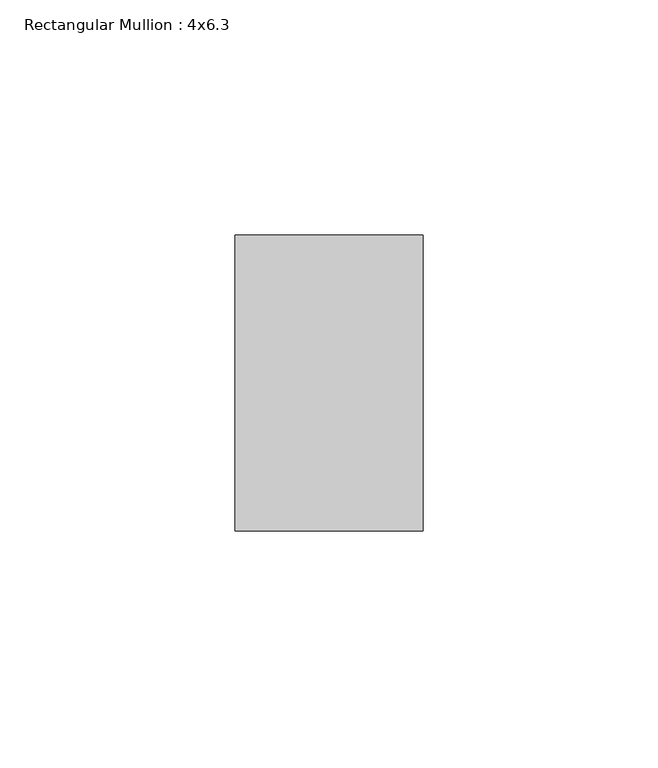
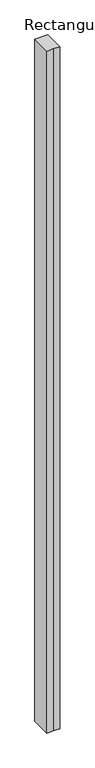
"""IFC4 building model written with IfcOpenShell, lengths in millimetres: member geometry, Rectangular Mullion : 4x6.3."""

from ifc_helpers import new_model, si_unit, frame, origin, place, context, project, spatial, polyline, outline, extrude, source, transform, mapped, element, save


def rectangular_mullion_4x6_3_479f464c(model_context):
    return source(origin(), model_context, "Body", "SweptSolid", [
        extrude(outline(polyline([(-20.0, 20.0), (-20.0, 83.0), (20.0, 83.0), (20.0, 20.0), (0.0, 20.0), (-20.0, 20.0)])), frame((0.0, 0.0, -2210.9517612), z_axis=(0.0, 0.0, 1.0), x_axis=(1.0, 0.0, 0.0)), (0.0, 0.0, 1.0), 2210.9517612),
    ])


if __name__ == "__main__":
    model = new_model("IFC4")
    model_context = context("Model", 3, world=origin())
    ifc_project = project(units=[si_unit("LENGTHUNIT", "METRE", prefix="MILLI")], contexts=[model_context])
    site = spatial("IfcSite", under=ifc_project)
    building = spatial("IfcBuilding", under=site)
    placement = place(None, origin())
    rectangular_mullion_4x6_3_shape = rectangular_mullion_4x6_3_479f464c(model_context)
    element("IfcMember", 1, ObjectType="Rectangular Mullion : 4x6.3", at=placement, inside=building, context=model_context, shape_type="MappedRepresentation", body=[
        mapped(rectangular_mullion_4x6_3_shape, transform((0.0, 0.0, 0.0), x_axis=(1.0, 0.0, 0.0), y_axis=(0.0, 1.0, 0.0), z_axis=(0.0, 0.0, 1.0))),
    ])
    save(model, "model.ifc")
